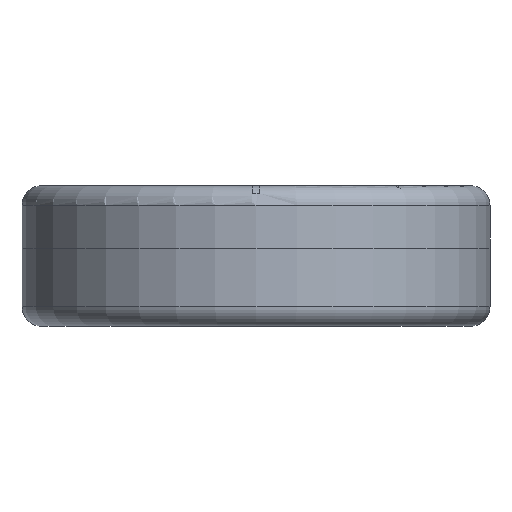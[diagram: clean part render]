
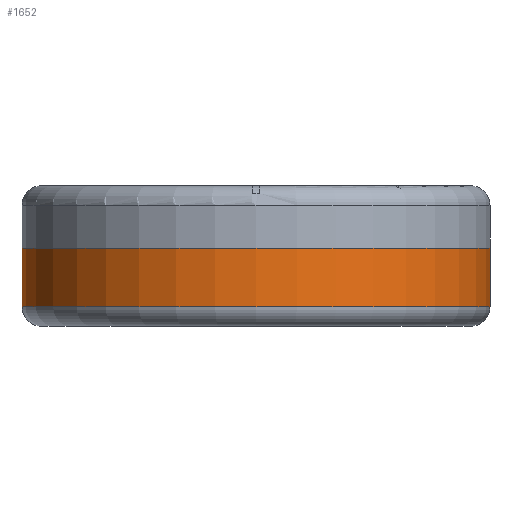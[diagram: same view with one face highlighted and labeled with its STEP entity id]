
A CAD part, front view. The second image highlights one B-rep face of the part: STEP entity #1652.
In plain terms, the highlighted cylindrical face has radius 12 mm (diameter 24 mm), a partial arc.
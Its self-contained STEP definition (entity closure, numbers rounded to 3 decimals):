
#14 = VECTOR ( 'NONE', #961, 1000. ) ;
#43 = CARTESIAN_POINT ( 'NONE',  ( 0., -47., 4. ) ) ;
#124 = VERTEX_POINT ( 'NONE', #2678 ) ;
#131 = CARTESIAN_POINT ( 'NONE',  ( -12., -47., 4. ) ) ;
#145 = DIRECTION ( 'NONE',  ( 0., 0., -1. ) ) ;
#148 = CARTESIAN_POINT ( 'NONE',  ( 0., -47., 1. ) ) ;
#275 = EDGE_CURVE ( 'NONE', #124, #2918, #1204, .T. ) ;
#278 = LINE ( 'NONE', #1182, #14 ) ;
#303 = VECTOR ( 'NONE', #145, 1000. ) ;
#345 = EDGE_CURVE ( 'NONE', #124, #844, #1520, .T. ) ;
#479 = ORIENTED_EDGE ( 'NONE', *, *, #2159, .T. ) ;
#656 = CARTESIAN_POINT ( 'NONE',  ( -12., -47., 1. ) ) ;
#818 = ORIENTED_EDGE ( 'NONE', *, *, #345, .T. ) ;
#821 = FACE_OUTER_BOUND ( 'NONE', #2233, .T. ) ;
#844 = VERTEX_POINT ( 'NONE', #656 ) ;
#945 = CARTESIAN_POINT ( 'NONE',  ( 12., -47., 1. ) ) ;
#957 = DIRECTION ( 'NONE',  ( 0., 0., 1. ) ) ;
#961 = DIRECTION ( 'NONE',  ( 0., 0., -1. ) ) ;
#1182 = CARTESIAN_POINT ( 'NONE',  ( 12., -47., 4. ) ) ;
#1188 = VERTEX_POINT ( 'NONE', #945 ) ;
#1201 = ORIENTED_EDGE ( 'NONE', *, *, #1957, .F. ) ;
#1204 = CIRCLE ( 'NONE', #2099, 12. ) ;
#1346 = AXIS2_PLACEMENT_3D ( 'NONE', #148, #1523, #2420 ) ;
#1442 = CYLINDRICAL_SURFACE ( 'NONE', #2658, 12. ) ;
#1520 = LINE ( 'NONE', #131, #303 ) ;
#1523 = DIRECTION ( 'NONE',  ( 0., 0., 1. ) ) ;
#1579 = CIRCLE ( 'NONE', #1346, 12. ) ;
#1652 = ADVANCED_FACE ( 'NONE', ( #821 ), #1442, .T. ) ;
#1722 = DIRECTION ( 'NONE',  ( 0., 0., -1. ) ) ;
#1751 = CARTESIAN_POINT ( 'NONE',  ( 12., -47., 4. ) ) ;
#1910 = DIRECTION ( 'NONE',  ( 1., 0., 0. ) ) ;
#1939 = CARTESIAN_POINT ( 'NONE',  ( 0., -47., 4. ) ) ;
#1957 = EDGE_CURVE ( 'NONE', #2918, #1188, #278, .T. ) ;
#2099 = AXIS2_PLACEMENT_3D ( 'NONE', #43, #957, #1910 ) ;
#2159 = EDGE_CURVE ( 'NONE', #844, #1188, #1579, .T. ) ;
#2233 = EDGE_LOOP ( 'NONE', ( #818, #479, #1201, #2874 ) ) ;
#2420 = DIRECTION ( 'NONE',  ( 1., 0., 0. ) ) ;
#2601 = DIRECTION ( 'NONE',  ( -1., 0., 0. ) ) ;
#2658 = AXIS2_PLACEMENT_3D ( 'NONE', #1939, #1722, #2601 ) ;
#2678 = CARTESIAN_POINT ( 'NONE',  ( -12., -47., 4. ) ) ;
#2874 = ORIENTED_EDGE ( 'NONE', *, *, #275, .F. ) ;
#2918 = VERTEX_POINT ( 'NONE', #1751 ) ;
